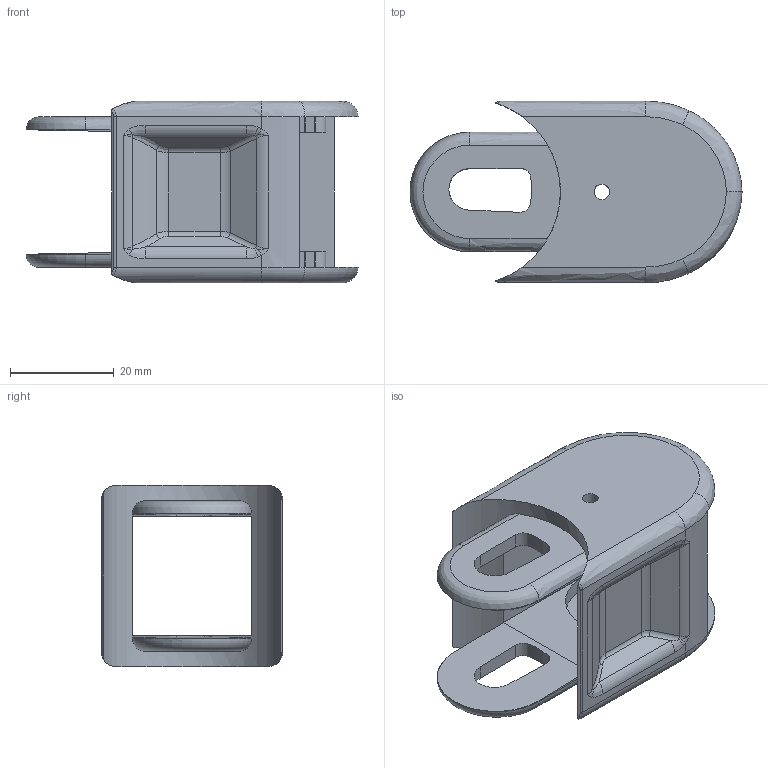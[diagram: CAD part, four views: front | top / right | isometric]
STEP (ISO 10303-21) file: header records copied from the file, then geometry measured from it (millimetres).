
FILE_DESCRIPTION((''),'2;1');
FILE_NAME('E:\Uebbing\temp\PFR 121\PFR121-75.stp','2010-08-16T10:06:37',('UebbingXP'),(''),'Autodesk Inventor 10','Autodesk Inventor 10','');
FILE_SCHEMA(('AUTOMOTIVE_DESIGN { 1 0 10303 214 1 1 1 1 }'));
Length unit declared in the file: millimetre
Products named in the file (1): PFR121-75 
Bounding box: 64 x 35 x 35 mm (x, y, z)
Volume: 17884.7 mm3; surface area: 12287.8 mm2
Topology: 1 solids, 1 shells, 173 faces, 440 edges, 262 vertices
Faces by surface type: bspline 96, plane 37, cylinder 35, torus 5
Full cylindrical faces by diameter (mm): 3 x1
Entity records: 8103 total; most frequent: CARTESIAN_POINT 4280, ORIENTED_EDGE 856, DIRECTION 686, EDGE_CURVE 428, VERTEX_POINT 260, AXIS2_PLACEMENT_3D 242, VECTOR 202, LINE 202
